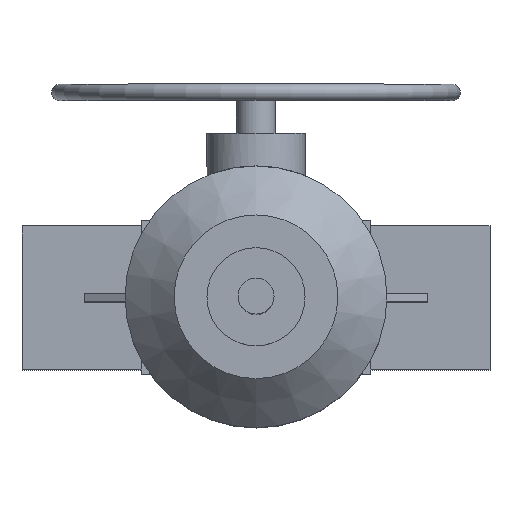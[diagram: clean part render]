
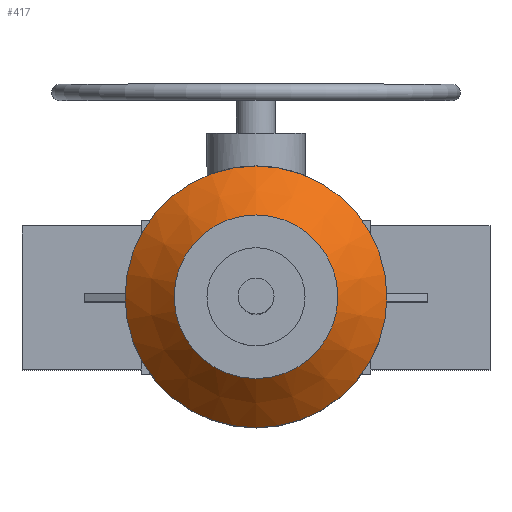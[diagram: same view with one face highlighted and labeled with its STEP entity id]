
A CAD part, top view. The second image highlights one B-rep face of the part: STEP entity #417.
In plain terms, the highlighted conical face has half-angle 45 degrees and reference radius 65 mm.
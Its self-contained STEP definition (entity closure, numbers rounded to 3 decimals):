
#417=ADVANCED_FACE('',(#1414,#1416),#1418,.T.);
#1414=FACE_OUTER_BOUND('',#1415,.T.);
#1415=EDGE_LOOP('',(#2239));
#1416=FACE_OUTER_BOUND('',#1417,.T.);
#1417=EDGE_LOOP('',(#2240));
#1418=CONICAL_SURFACE('',#1419,65.,0.785);
#1419=AXIS2_PLACEMENT_3D('',#1420,#1421,#1422);
#1420=CARTESIAN_POINT('',(0.,0.,620.));
#1421=DIRECTION('',(0.,0.,-1.));
#1422=DIRECTION('',(0.,-1.,0.));
#2239=ORIENTED_EDGE('',*,*,#2641,.T.);
#2240=ORIENTED_EDGE('',*,*,#2642,.F.);
#2641=EDGE_CURVE('',#2964,#2964,#2965,.T.);
#2642=EDGE_CURVE('',#2966,#2966,#2967,.T.);
#2964=VERTEX_POINT('',#3592);
#2965=CIRCLE('',#3593,50.);
#2966=VERTEX_POINT('',#3597);
#2967=CIRCLE('',#3598,80.);
#3592=CARTESIAN_POINT('',(0.,-50.,635.));
#3593=AXIS2_PLACEMENT_3D('',#3594,#3595,#3596);
#3594=CARTESIAN_POINT('',(0.,0.,635.));
#3595=DIRECTION('',(0.,0.,-1.));
#3596=DIRECTION('',(0.,-1.,0.));
#3597=CARTESIAN_POINT('',(0.,-80.,605.));
#3598=AXIS2_PLACEMENT_3D('',#3599,#3600,#3601);
#3599=CARTESIAN_POINT('',(0.,0.,605.));
#3600=DIRECTION('',(0.,0.,-1.));
#3601=DIRECTION('',(0.,-1.,0.));
